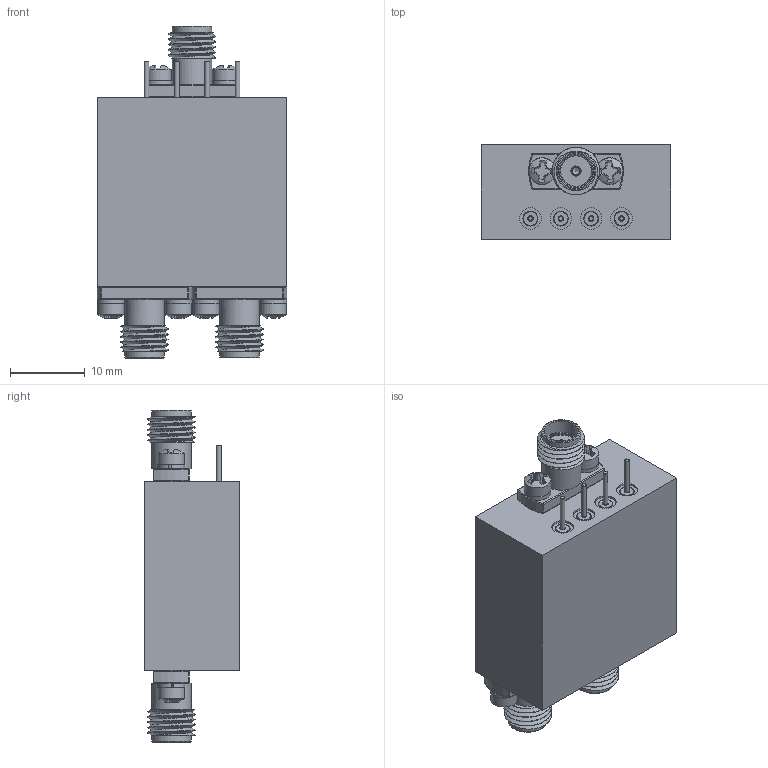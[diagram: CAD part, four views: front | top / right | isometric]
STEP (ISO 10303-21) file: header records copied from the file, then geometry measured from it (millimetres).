
FILE_DESCRIPTION (( 'STEP AP214' ), '1' );
FILE_NAME ('P2T-500M20G-50-T-5-12-SFF-I-SP.STEP', '2026-10-07T15:30:04', ( '' ), ( '' ), 'SwSTEP 2.0', 'SolidWorks 2025', '' );
FILE_SCHEMA (( 'AUTOMOTIVE_DESIGN' ));
Length unit declared in the file: inch
Products named in the file (1): P2T-500M20G-50-T-5-12-SFF-I-SP
Bounding box: 25.4 x 12.75 x 44.45 mm (x, y, z)
Volume: 9012.1 mm3; surface area: 6132.8 mm2
Topology: 27 solids, 27 shells, 711 faces, 2408 edges, 1932 vertices
Faces by surface type: plane 393, cylinder 141, torus 93, cone 48, sphere 30, bspline 6
Full cylindrical faces by diameter (mm): 0.305 x3, 0.559 x3, 0.635 x8, 0.889 x3, 1.016 x3, 1.27 x3, 1.295 x4, 1.676 x3, 1.93 x4, 1.981 x6, 2.007 x7, 2.184 x12, 2.489 x3, 2.591 x6, 2.896 x4, 3.302 x3, 3.556 x6, 4.191 x6, 4.597 x3, 5.283 x6
Entity records: 42117 total; most frequent: CARTESIAN_POINT 12567, ORIENTED_EDGE 4310, DIRECTION 3770, EDGE_CURVE 2155, VERTEX_POINT 1904, AXIS2_PLACEMENT_3D 1375, EDGE_LOOP 1129, VECTOR 1020
